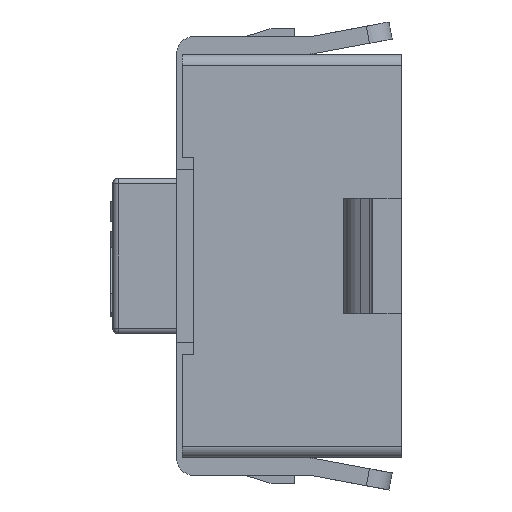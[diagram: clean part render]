
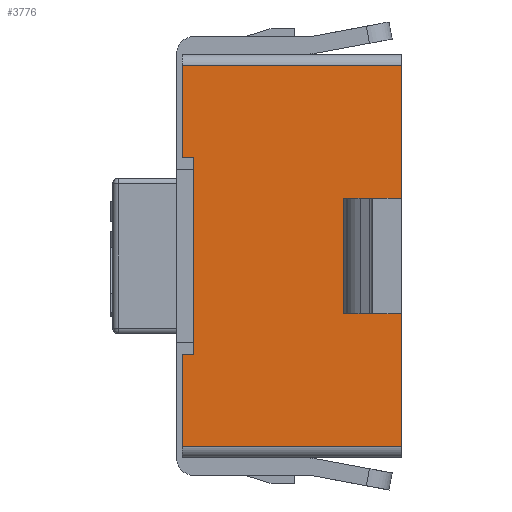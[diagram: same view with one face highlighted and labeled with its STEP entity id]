
A CAD part, left-side view. The second image highlights one B-rep face of the part: STEP entity #3776.
In plain terms, the highlighted planar face has unit normal (-1, 0, 0).
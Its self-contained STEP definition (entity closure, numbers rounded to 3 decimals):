
#630=DIRECTION('',(0.,1.,0.));
#631=VECTOR('',#630,1.9);
#632=CARTESIAN_POINT('',(-3.,0.,-1.65));
#633=LINE('',#632,#631);
#634=DIRECTION('',(0.,0.,1.));
#635=VECTOR('',#634,0.8);
#636=CARTESIAN_POINT('',(-3.,1.9,-1.65));
#637=LINE('',#636,#635);
#638=DIRECTION('',(0.,-1.,0.));
#639=VECTOR('',#638,0.1);
#640=CARTESIAN_POINT('',(-3.,1.9,-0.85));
#641=LINE('',#640,#639);
#642=DIRECTION('',(0.,0.,1.));
#643=VECTOR('',#642,1.7);
#644=CARTESIAN_POINT('',(-3.,1.8,-0.85));
#645=LINE('',#644,#643);
#646=DIRECTION('',(0.,0.,1.));
#647=VECTOR('',#646,0.8);
#648=CARTESIAN_POINT('',(-3.,1.9,0.85));
#649=LINE('',#648,#647);
#650=DIRECTION('',(0.,-1.,0.));
#651=VECTOR('',#650,1.9);
#652=CARTESIAN_POINT('',(-3.,1.9,1.65));
#653=LINE('',#652,#651);
#654=DIRECTION('',(0.,0.,-1.));
#655=VECTOR('',#654,3.3);
#656=CARTESIAN_POINT('',(-3.,0.,1.65));
#657=LINE('',#656,#655);
#662=DIRECTION('',(0.,-1.,0.));
#663=VECTOR('',#662,0.1);
#664=CARTESIAN_POINT('',(-3.,1.9,0.85));
#665=LINE('',#664,#663);
#702=DIRECTION('',(0.,1.,0.));
#703=VECTOR('',#702,0.25);
#704=CARTESIAN_POINT('',(-3.,0.25,-0.5));
#705=LINE('',#704,#703);
#710=DIRECTION('',(0.,0.,1.));
#711=VECTOR('',#710,1.);
#712=CARTESIAN_POINT('',(-3.,0.5,-0.5));
#713=LINE('',#712,#711);
#718=DIRECTION('',(0.,-1.,0.));
#719=VECTOR('',#718,0.25);
#720=CARTESIAN_POINT('',(-3.,0.5,0.5));
#721=LINE('',#720,#719);
#758=DIRECTION('',(0.,0.,-1.));
#759=VECTOR('',#758,1.);
#760=CARTESIAN_POINT('',(-3.,0.25,0.5));
#761=LINE('',#760,#759);
#2297=CARTESIAN_POINT('',(-3.,1.8,0.85));
#2298=VERTEX_POINT('',#2297);
#2300=CARTESIAN_POINT('',(-3.,1.8,-0.85));
#2302=VERTEX_POINT('',#2300);
#2370=CARTESIAN_POINT('',(-3.,1.9,1.65));
#2372=VERTEX_POINT('',#2370);
#2373=CARTESIAN_POINT('',(-3.,1.9,0.85));
#2374=VERTEX_POINT('',#2373);
#2377=CARTESIAN_POINT('',(-3.,0.,1.65));
#2378=VERTEX_POINT('',#2377);
#2379=CARTESIAN_POINT('',(-3.,0.,-1.65));
#2380=VERTEX_POINT('',#2379);
#2383=CARTESIAN_POINT('',(-3.,1.9,-1.65));
#2384=VERTEX_POINT('',#2383);
#2385=CARTESIAN_POINT('',(-3.,1.9,-0.85));
#2387=VERTEX_POINT('',#2385);
#2389=CARTESIAN_POINT('',(-3.,0.25,-0.5));
#2390=CARTESIAN_POINT('',(-3.,0.5,-0.5));
#2391=VERTEX_POINT('',#2389);
#2392=VERTEX_POINT('',#2390);
#2393=CARTESIAN_POINT('',(-3.,0.5,0.5));
#2394=VERTEX_POINT('',#2393);
#2417=CARTESIAN_POINT('',(-3.,0.25,0.5));
#2418=VERTEX_POINT('',#2417);
#3750=CARTESIAN_POINT('',(-3.,0.95,0.));
#3751=DIRECTION('',(1.,0.,0.));
#3752=DIRECTION('',(0.,0.,1.));
#3753=AXIS2_PLACEMENT_3D('',#3750,#3751,#3752);
#3754=PLANE('',#3753);
#3755=ORIENTED_EDGE('',*,*,#3703,.T.);
#3756=ORIENTED_EDGE('',*,*,#3719,.T.);
#3757=ORIENTED_EDGE('',*,*,#3745,.T.);
#3758=ORIENTED_EDGE('',*,*,#3253,.T.);
#3760=ORIENTED_EDGE('',*,*,#3759,.F.);
#3761=ORIENTED_EDGE('',*,*,#3654,.T.);
#3762=ORIENTED_EDGE('',*,*,#3670,.T.);
#3763=ORIENTED_EDGE('',*,*,#3684,.T.);
#3764=EDGE_LOOP('',(#3755,#3756,#3757,#3758,#3760,#3761,#3762,#3763));
#3765=FACE_OUTER_BOUND('',#3764,.F.);
#3767=ORIENTED_EDGE('',*,*,#3766,.F.);
#3769=ORIENTED_EDGE('',*,*,#3768,.F.);
#3771=ORIENTED_EDGE('',*,*,#3770,.F.);
#3773=ORIENTED_EDGE('',*,*,#3772,.F.);
#3774=EDGE_LOOP('',(#3767,#3769,#3771,#3773));
#3775=FACE_BOUND('',#3774,.F.);
#3253=EDGE_CURVE('',#2302,#2298,#645,.T.);
#3654=EDGE_CURVE('',#2374,#2372,#649,.T.);
#3670=EDGE_CURVE('',#2372,#2378,#653,.T.);
#3684=EDGE_CURVE('',#2378,#2380,#657,.T.);
#3703=EDGE_CURVE('',#2380,#2384,#633,.T.);
#3719=EDGE_CURVE('',#2384,#2387,#637,.T.);
#3745=EDGE_CURVE('',#2387,#2302,#641,.T.);
#3759=EDGE_CURVE('',#2374,#2298,#665,.T.);
#3766=EDGE_CURVE('',#2391,#2392,#705,.T.);
#3768=EDGE_CURVE('',#2418,#2391,#761,.T.);
#3770=EDGE_CURVE('',#2394,#2418,#721,.T.);
#3772=EDGE_CURVE('',#2392,#2394,#713,.T.);
#3776=ADVANCED_FACE('',(#3765,#3775),#3754,.F.);
